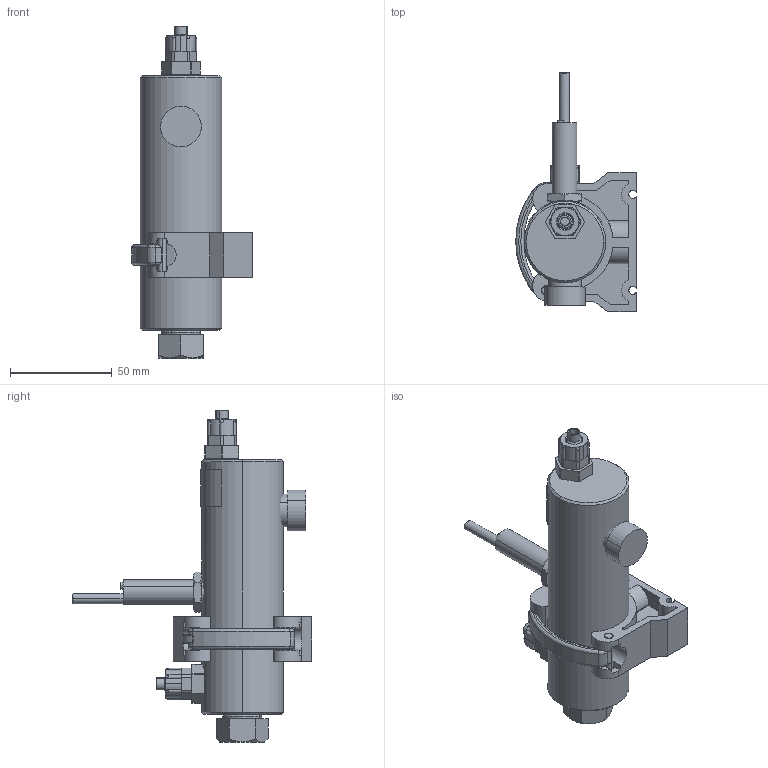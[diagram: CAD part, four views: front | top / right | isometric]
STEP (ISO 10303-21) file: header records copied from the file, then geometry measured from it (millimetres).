
FILE_DESCRIPTION(('CATIA V5 STEP Exchange'),'2;1');
FILE_NAME('H:\USER\EW_20_EM\Hasenauer_Kai\202811_20\202811_20_Stroemungswaechter_TN00605507.stp','2019-12-09T09:16:33+00:00',('none'),('none'),'CATIA Version 5-6 Release 2018 SP1 HF2','CATIA V5 STEP AP203','none');
FILE_SCHEMA(('CONFIG_CONTROL_DESIGN'));
Length unit declared in the file: millimetre
Products named in the file (1): Strömungswächter
Bounding box: 59.16 x 117.37 x 162.77 mm (x, y, z)
Volume: 212960.8 mm3; surface area: 48403.3 mm2
Topology: 10 solids, 10 shells, 455 faces, 1130 edges, 722 vertices
Faces by surface type: cylinder 177, plane 168, cone 50, torus 36, extrusion 18, revolution 6
Entity records: 13330 total; most frequent: CARTESIAN_POINT 3431, ORIENTED_EDGE 2260, DIRECTION 1548, EDGE_CURVE 1130, AXIS2_PLACEMENT_3D 760, VERTEX_POINT 722, VECTOR 500, EDGE_LOOP 496
